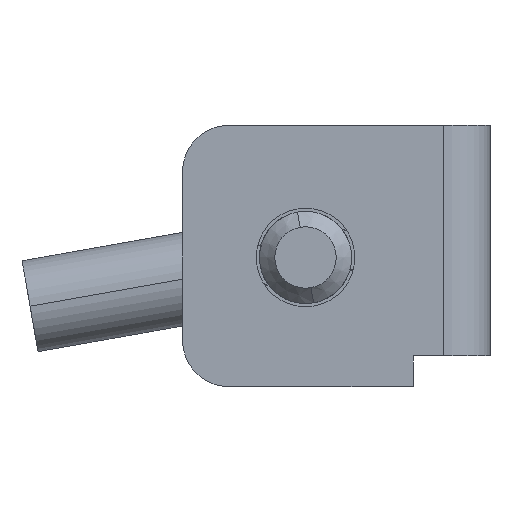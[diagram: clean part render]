
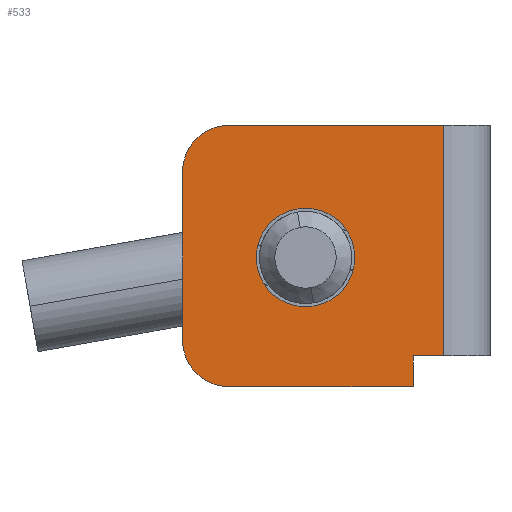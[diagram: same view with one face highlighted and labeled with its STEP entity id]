
A CAD part, left-side view. The second image highlights one B-rep face of the part: STEP entity #533.
In plain terms, the highlighted planar face has unit normal (-1, 0, 0).
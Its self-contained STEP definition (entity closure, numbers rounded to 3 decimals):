
#392 = VERTEX_POINT ( 'NONE', #1842 ) ;
#397 = EDGE_CURVE ( 'NONE', #422, #419, #1852, .T. ) ;
#402 = EDGE_CURVE ( 'NONE', #392, #418, #1851, .T. ) ;
#403 = EDGE_CURVE ( 'NONE', #705, #421, #1829, .T. ) ;
#404 = EDGE_CURVE ( 'NONE', #421, #392, #1881, .T. ) ;
#405 = EDGE_CURVE ( 'NONE', #419, #418, #1877, .T. ) ;
#406 = ORIENTED_EDGE ( 'NONE', *, *, #402, .F. ) ;
#407 = ORIENTED_EDGE ( 'NONE', *, *, #404, .F. ) ;
#414 = EDGE_CURVE ( 'NONE', #662, #422, #1835, .T. ) ;
#415 = ORIENTED_EDGE ( 'NONE', *, *, #397, .T. ) ;
#418 = VERTEX_POINT ( 'NONE', #1872 ) ;
#419 = VERTEX_POINT ( 'NONE', #1882 ) ;
#421 = VERTEX_POINT ( 'NONE', #1860 ) ;
#422 = VERTEX_POINT ( 'NONE', #1858 ) ;
#424 = ORIENTED_EDGE ( 'NONE', *, *, #405, .T. ) ;
#428 = ORIENTED_EDGE ( 'NONE', *, *, #403, .F. ) ;
#512 = EDGE_LOOP ( 'NONE', ( #578, #665 ) ) ;
#533 = ADVANCED_FACE ( 'NONE', ( #2174, #2169 ), #2127, .F. ) ;
#567 = VERTEX_POINT ( 'NONE', #2240 ) ;
#575 = VERTEX_POINT ( 'NONE', #2235 ) ;
#578 = ORIENTED_EDGE ( 'NONE', *, *, #597, .F. ) ;
#597 = EDGE_CURVE ( 'NONE', #575, #567, #2256, .T. ) ;
#598 = EDGE_CURVE ( 'NONE', #702, #662, #2264, .T. ) ;
#651 = EDGE_CURVE ( 'NONE', #567, #575, #2345, .T. ) ;
#656 = ORIENTED_EDGE ( 'NONE', *, *, #701, .T. ) ;
#660 = EDGE_LOOP ( 'NONE', ( #656, #699, #703, #415, #424, #406, #407, #428 ) ) ;
#662 = VERTEX_POINT ( 'NONE', #2377 ) ;
#665 = ORIENTED_EDGE ( 'NONE', *, *, #651, .F. ) ;
#699 = ORIENTED_EDGE ( 'NONE', *, *, #598, .T. ) ;
#701 = EDGE_CURVE ( 'NONE', #705, #702, #2971, .T. ) ;
#702 = VERTEX_POINT ( 'NONE', #2965 ) ;
#703 = ORIENTED_EDGE ( 'NONE', *, *, #414, .T. ) ;
#705 = VERTEX_POINT ( 'NONE', #2961 ) ;
#1823 = DIRECTION ( 'NONE',  ( 0., 0., -1. ) ) ;
#1824 = VECTOR ( 'NONE', #1823, 1000. ) ;
#1826 = DIRECTION ( 'NONE',  ( 0., 0., -1. ) ) ;
#1827 = VECTOR ( 'NONE', #1826, 1000. ) ;
#1828 = CARTESIAN_POINT ( 'NONE',  ( -52.702, 32.516, 10.5 ) ) ;
#1829 = LINE ( 'NONE', #1828, #1884 ) ;
#1830 = DIRECTION ( 'NONE',  ( 0., 0., -1. ) ) ;
#1831 = DIRECTION ( 'NONE',  ( -1., 0., 0. ) ) ;
#1832 = CARTESIAN_POINT ( 'NONE',  ( -52.702, 39.516, 1.5 ) ) ;
#1833 = AXIS2_PLACEMENT_3D ( 'NONE', #1832, #1831, #1830 ) ;
#1834 = CARTESIAN_POINT ( 'NONE',  ( -52.702, 41.016, 10.5 ) ) ;
#1835 = LINE ( 'NONE', #1834, #1824 ) ;
#1842 = CARTESIAN_POINT ( 'NONE',  ( -52.702, 33.515, 1. ) ) ;
#1850 = CARTESIAN_POINT ( 'NONE',  ( -52.702, 33.515, 1. ) ) ;
#1851 = LINE ( 'NONE', #1850, #1827 ) ;
#1852 = CIRCLE ( 'NONE', #1833, 1.5 ) ;
#1858 = CARTESIAN_POINT ( 'NONE',  ( -52.702, 41.016, 1.5 ) ) ;
#1860 = CARTESIAN_POINT ( 'NONE',  ( -52.702, 32.516, 1. ) ) ;
#1872 = CARTESIAN_POINT ( 'NONE',  ( -52.702, 33.515, 0. ) ) ;
#1874 = DIRECTION ( 'NONE',  ( 0., -1., 0. ) ) ;
#1875 = VECTOR ( 'NONE', #1874, 1000. ) ;
#1876 = CARTESIAN_POINT ( 'NONE',  ( -52.702, 41.016, 0. ) ) ;
#1877 = LINE ( 'NONE', #1876, #1875 ) ;
#1878 = DIRECTION ( 'NONE',  ( 0., 1., 0. ) ) ;
#1879 = VECTOR ( 'NONE', #1878, 1000. ) ;
#1880 = CARTESIAN_POINT ( 'NONE',  ( -52.702, 33.515, 1. ) ) ;
#1881 = LINE ( 'NONE', #1880, #1879 ) ;
#1882 = CARTESIAN_POINT ( 'NONE',  ( -52.702, 39.516, 0. ) ) ;
#1883 = DIRECTION ( 'NONE',  ( 0., 0., -1. ) ) ;
#1884 = VECTOR ( 'NONE', #1883, 1000. ) ;
#2127 = PLANE ( 'NONE',  #2129 ) ;
#2129 = AXIS2_PLACEMENT_3D ( 'NONE', #2163, #2170, #2158 ) ;
#2158 = DIRECTION ( 'NONE',  ( 0., 0., -1. ) ) ;
#2163 = CARTESIAN_POINT ( 'NONE',  ( -52.702, 41.016, 10.5 ) ) ;
#2169 = FACE_OUTER_BOUND ( 'NONE', #660, .T. ) ;
#2170 = DIRECTION ( 'NONE',  ( 1., 0., 0. ) ) ;
#2174 = FACE_BOUND ( 'NONE', #512, .T. ) ;
#2210 = AXIS2_PLACEMENT_3D ( 'NONE', #2257, #2248, #2247 ) ;
#2211 = AXIS2_PLACEMENT_3D ( 'NONE', #2253, #2252, #2251 ) ;
#2235 = CARTESIAN_POINT ( 'NONE',  ( -52.702, 37.016, 5.8 ) ) ;
#2240 = CARTESIAN_POINT ( 'NONE',  ( -52.702, 37.016, 2.6 ) ) ;
#2247 = DIRECTION ( 'NONE',  ( 0., 0., -1. ) ) ;
#2248 = DIRECTION ( 'NONE',  ( -1., 0., 0. ) ) ;
#2251 = DIRECTION ( 'NONE',  ( 0., 0., 1. ) ) ;
#2252 = DIRECTION ( 'NONE',  ( -1., 0., 0. ) ) ;
#2253 = CARTESIAN_POINT ( 'NONE',  ( -52.702, 37.016, 4.2 ) ) ;
#2256 = CIRCLE ( 'NONE', #2211, 1.6 ) ;
#2257 = CARTESIAN_POINT ( 'NONE',  ( -52.702, 39.516, 6.996 ) ) ;
#2264 = CIRCLE ( 'NONE', #2210, 1.5 ) ;
#2341 = DIRECTION ( 'NONE',  ( 0., 0., 1. ) ) ;
#2342 = DIRECTION ( 'NONE',  ( -1., 0., 0. ) ) ;
#2343 = CARTESIAN_POINT ( 'NONE',  ( -52.702, 37.016, 4.2 ) ) ;
#2344 = AXIS2_PLACEMENT_3D ( 'NONE', #2343, #2342, #2341 ) ;
#2345 = CIRCLE ( 'NONE', #2344, 1.6 ) ;
#2377 = CARTESIAN_POINT ( 'NONE',  ( -52.702, 41.016, 6.996 ) ) ;
#2961 = CARTESIAN_POINT ( 'NONE',  ( -52.702, 32.516, 8.496 ) ) ;
#2963 = DIRECTION ( 'NONE',  ( 0., 1., 0. ) ) ;
#2964 = VECTOR ( 'NONE', #2963, 1000. ) ;
#2965 = CARTESIAN_POINT ( 'NONE',  ( -52.702, 39.516, 8.496 ) ) ;
#2970 = CARTESIAN_POINT ( 'NONE',  ( -52.702, 31.016, 8.496 ) ) ;
#2971 = LINE ( 'NONE', #2970, #2964 ) ;
